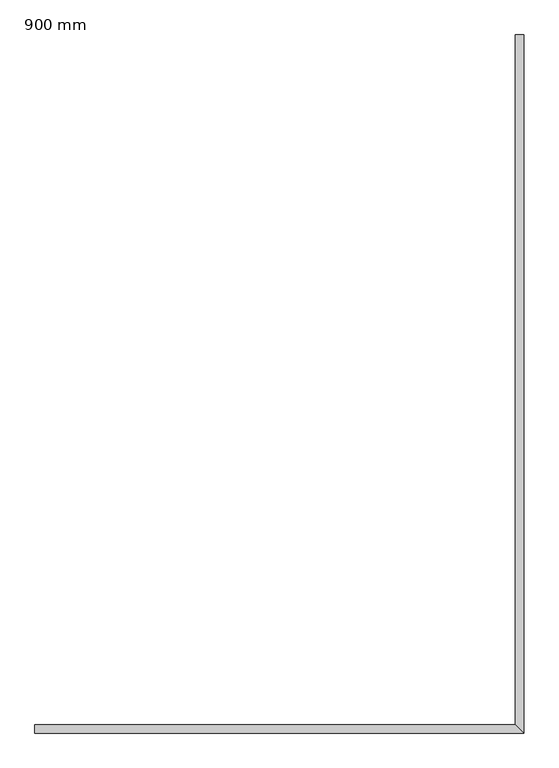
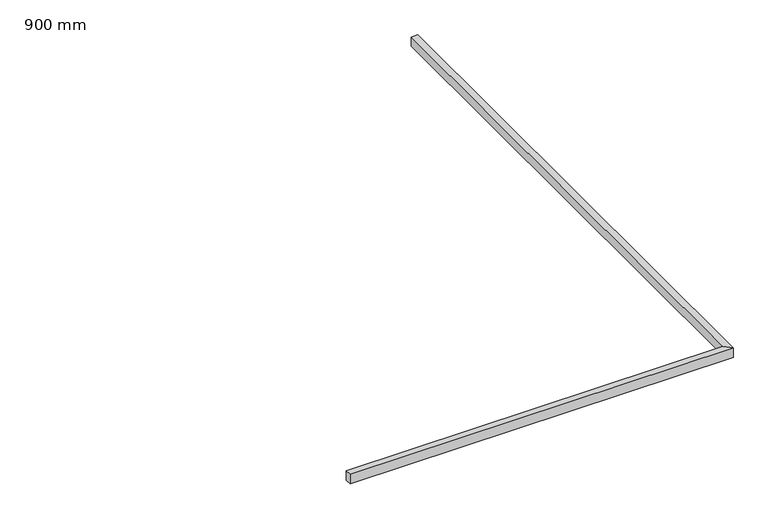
"""IFC4 building model written with IfcOpenShell, lengths in millimetres: railing geometry, 900 mm."""

from ifc_helpers import new_model, si_unit, origin, place, context, project, spatial, faceted_brep, source, transform, mapped, element, save


def railing_900_mm_d9ed72f4(model_context):
    return source(origin(), model_context, "Body", "Brep", [
        faceted_brep([(-6861.012268, 5543.0835606, 900.0), (-6861.012268, 5543.0835606, 823.8), (-6861.012268, 5492.2835606, 823.8), (-6861.012268, 5492.2835606, 900.0), (-3960.434414, 5543.0835606, 900.0), (-3960.434414, 5543.0835606, 823.8), (-3909.634414, 5492.2835606, 823.8), (-3909.634414, 5492.2835606, 900.0), (-3960.434414, 9703.1318646, 900.0), (-3909.634414, 9703.1318646, 900.0), (-3909.634414, 9703.1318646, 823.8), (-3960.434414, 9703.1318646, 823.8)], [[[0, 1, 2, 3]], [[1, 0, 4, 5]], [[2, 1, 5, 6]], [[3, 2, 6, 7]], [[0, 3, 7, 4]], [[8, 9, 10, 11]], [[5, 4, 8, 11]], [[6, 5, 11, 10]], [[7, 6, 10, 9]], [[4, 7, 9, 8]]]),
    ])


if __name__ == "__main__":
    model = new_model("IFC4")
    model_context = context("Model", 3, world=origin())
    ifc_project = project(units=[si_unit("LENGTHUNIT", "METRE", prefix="MILLI")], contexts=[model_context])
    site = spatial("IfcSite", under=ifc_project)
    building = spatial("IfcBuilding", under=site)
    placement = place(None, origin())
    railing_900_mm_shape = railing_900_mm_d9ed72f4(model_context)
    element("IfcRailing", 1, ObjectType="900 mm", at=placement, inside=building, context=model_context, shape_type="MappedRepresentation", body=[
        mapped(railing_900_mm_shape, transform((0.0, 0.0, 0.0), x_axis=(1.0, 0.0, 0.0), y_axis=(0.0, 1.0, 0.0), z_axis=(0.0, 0.0, 1.0))),
    ])
    save(model, "model.ifc")
